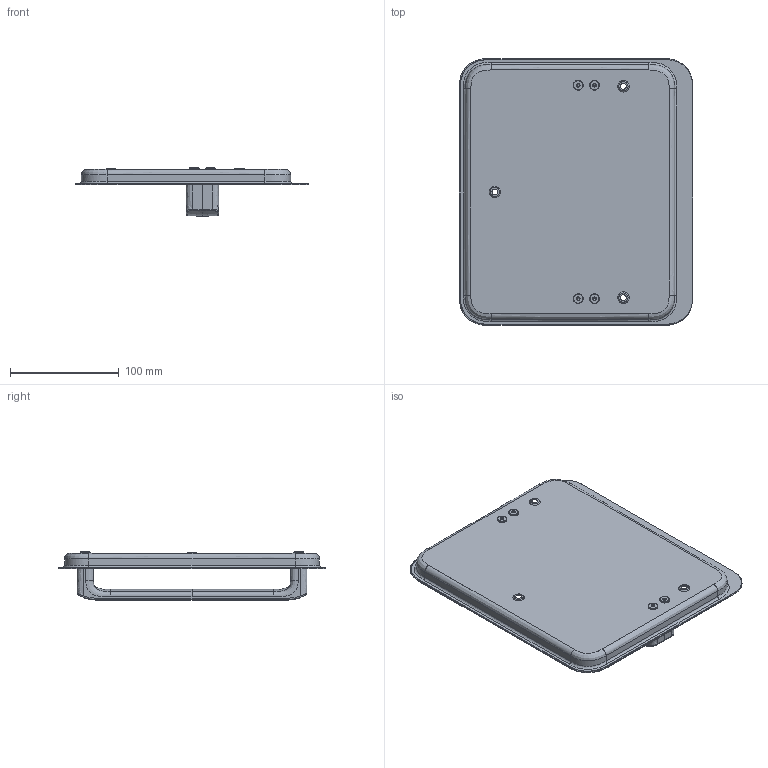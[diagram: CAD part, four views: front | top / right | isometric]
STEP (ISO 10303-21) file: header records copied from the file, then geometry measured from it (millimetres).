
FILE_DESCRIPTION(/* description */ (''),/* implementation_level */ '2;1');
FILE_NAME(/* name */ 'C:\ADSK_DMS_WS\Designs\Vorschläge\Loc Schalen\Heusser Muschel\Heusser-Muschel mit D6\S9.13.D6.0R..stp',/* time_stamp */ '2025-02-18T09:36:08+01:00',/* author */ ('gm'),/* organization */ (''),/* preprocessor_version */ 'ST-DEVELOPER v17.2',/* originating_system */ 'Autodesk Inventor 2019',/* authorisation */ '');
FILE_SCHEMA (('AUTOMOTIVE_DESIGN { 1 0 10303 214 3 1 1 }'));
Length unit declared in the file: millimetre
Products named in the file (4): S9.13.D6.R.; D6; M5x10 zu D6; Schale S9.13.R.D6
Assembly tree (6 placements, depth 2):
  S9.13.D6.R.
    D6
    M5x10 zu D6  x4
    Schale S9.13.R.D6
Bounding box: 214 x 245 x 44.5 mm (x, y, z)
Volume: 142018.5 mm3; surface area: 143426.1 mm2
Topology: 6 solids, 6 shells, 393 faces, 1013 edges, 651 vertices
Faces by surface type: bspline 148, plane 127, cylinder 64, cone 50, torus 4
Full cylindrical faces by diameter (mm): 4.134 x4, 5 x4, 5.5 x4, 9 x4
Entity records: 20886 total; most frequent: CARTESIAN_POINT 13989, ORIENTED_EDGE 1602, DIRECTION 938, EDGE_CURVE 801, VERTEX_POINT 516, LINE 422, VECTOR 422, EDGE_LOOP 347
